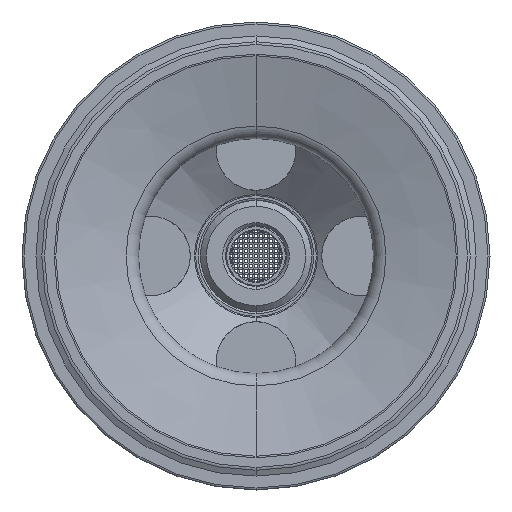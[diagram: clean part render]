
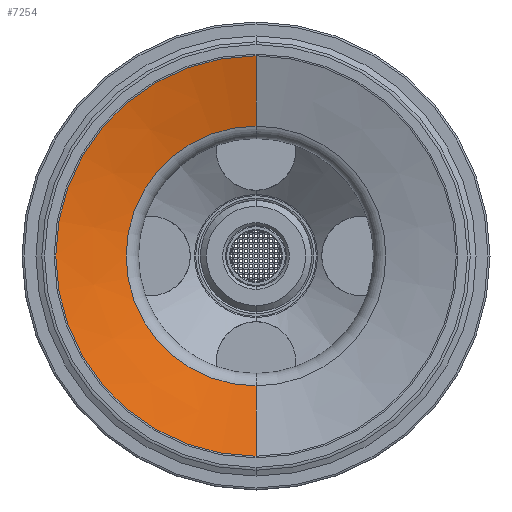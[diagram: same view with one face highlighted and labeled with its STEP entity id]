
A CAD part, front view. The second image highlights one B-rep face of the part: STEP entity #7254.
In plain terms, the highlighted conical face has half-angle 74.537 degrees and reference radius 19.78 mm.
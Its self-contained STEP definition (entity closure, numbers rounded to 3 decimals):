
#1854 = CARTESIAN_POINT ( 'NONE',  ( 0., -27.515, 19.78 ) ) ;
#2321 = DIRECTION ( 'NONE',  ( 0., 1., 0. ) ) ;
#2885 = AXIS2_PLACEMENT_3D ( 'NONE', #11099, #20071, #24214 ) ;
#4233 = LINE ( 'NONE', #12189, #10795 ) ;
#4443 = CARTESIAN_POINT ( 'NONE',  ( 0., -27.515, -19.78 ) ) ;
#4557 = AXIS2_PLACEMENT_3D ( 'NONE', #24544, #4813, #28027 ) ;
#4813 = DIRECTION ( 'NONE',  ( 0., 1., 0. ) ) ;
#5488 = ORIENTED_EDGE ( 'NONE', *, *, #15948, .T. ) ;
#6274 = FACE_OUTER_BOUND ( 'NONE', #25352, .T. ) ;
#7254 = ADVANCED_FACE ( 'NONE', ( #6274 ), #12702, .F. ) ;
#8387 = EDGE_CURVE ( 'NONE', #11873, #9335, #12431, .T. ) ;
#9322 = CARTESIAN_POINT ( 'NONE',  ( 0., -25.592, -12.83 ) ) ;
#9335 = VERTEX_POINT ( 'NONE', #4443 ) ;
#10104 = AXIS2_PLACEMENT_3D ( 'NONE', #13145, #2321, #22708 ) ;
#10709 = EDGE_CURVE ( 'NONE', #9335, #11786, #16650, .T. ) ;
#10795 = VECTOR ( 'NONE', #14688, 1000. ) ;
#11099 = CARTESIAN_POINT ( 'NONE',  ( 0., -27.515, 0. ) ) ;
#11786 = VERTEX_POINT ( 'NONE', #1854 ) ;
#11873 = VERTEX_POINT ( 'NONE', #9322 ) ;
#12146 = VERTEX_POINT ( 'NONE', #21617 ) ;
#12189 = CARTESIAN_POINT ( 'NONE',  ( 0., -27.515, 19.78 ) ) ;
#12332 = EDGE_CURVE ( 'NONE', #12146, #11786, #4233, .T. ) ;
#12431 = LINE ( 'NONE', #21399, #19483 ) ;
#12702 = CONICAL_SURFACE ( 'NONE', #2885, 19.78, 1.301 ) ;
#13145 = CARTESIAN_POINT ( 'NONE',  ( 0., -27.515, 0. ) ) ;
#14065 = DIRECTION ( 'NONE',  ( 0., -0.267, -0.964 ) ) ;
#14688 = DIRECTION ( 'NONE',  ( 0., -0.267, 0.964 ) ) ;
#14858 = CIRCLE ( 'NONE', #4557, 12.83 ) ;
#15948 = EDGE_CURVE ( 'NONE', #11873, #12146, #14858, .T. ) ;
#16650 = CIRCLE ( 'NONE', #10104, 19.78 ) ;
#19483 = VECTOR ( 'NONE', #14065, 1000. ) ;
#20071 = DIRECTION ( 'NONE',  ( 0., -1., 0. ) ) ;
#21203 = ORIENTED_EDGE ( 'NONE', *, *, #10709, .F. ) ;
#21399 = CARTESIAN_POINT ( 'NONE',  ( 0., -27.515, -19.78 ) ) ;
#21617 = CARTESIAN_POINT ( 'NONE',  ( 0., -25.592, 12.83 ) ) ;
#21762 = ORIENTED_EDGE ( 'NONE', *, *, #8387, .F. ) ;
#22708 = DIRECTION ( 'NONE',  ( 0., 0., 1. ) ) ;
#24214 = DIRECTION ( 'NONE',  ( 0., 0., -1. ) ) ;
#24544 = CARTESIAN_POINT ( 'NONE',  ( 0., -25.592, 0. ) ) ;
#25352 = EDGE_LOOP ( 'NONE', ( #5488, #28083, #21203, #21762 ) ) ;
#28027 = DIRECTION ( 'NONE',  ( 0., 0., 1. ) ) ;
#28083 = ORIENTED_EDGE ( 'NONE', *, *, #12332, .T. ) ;
